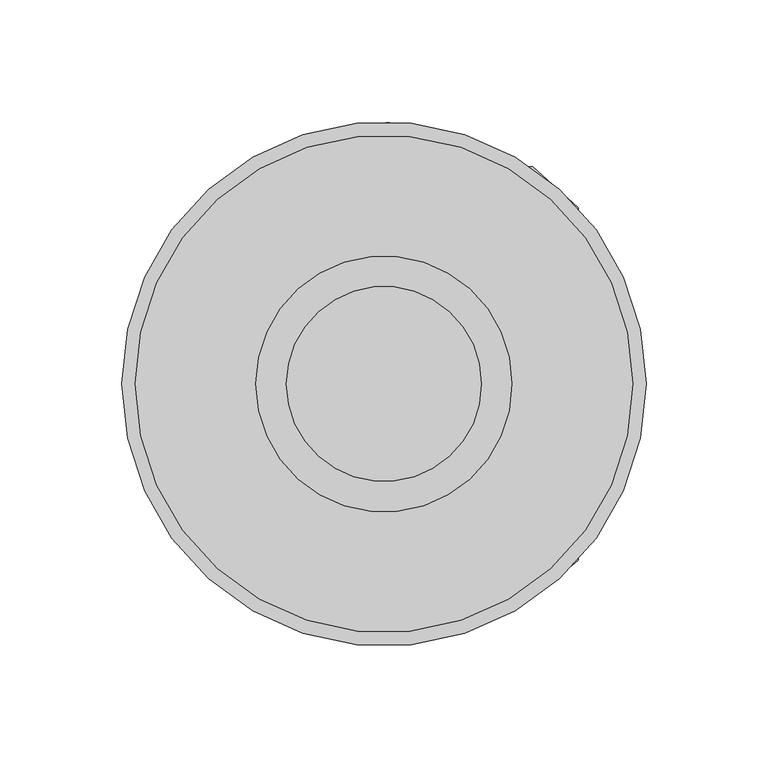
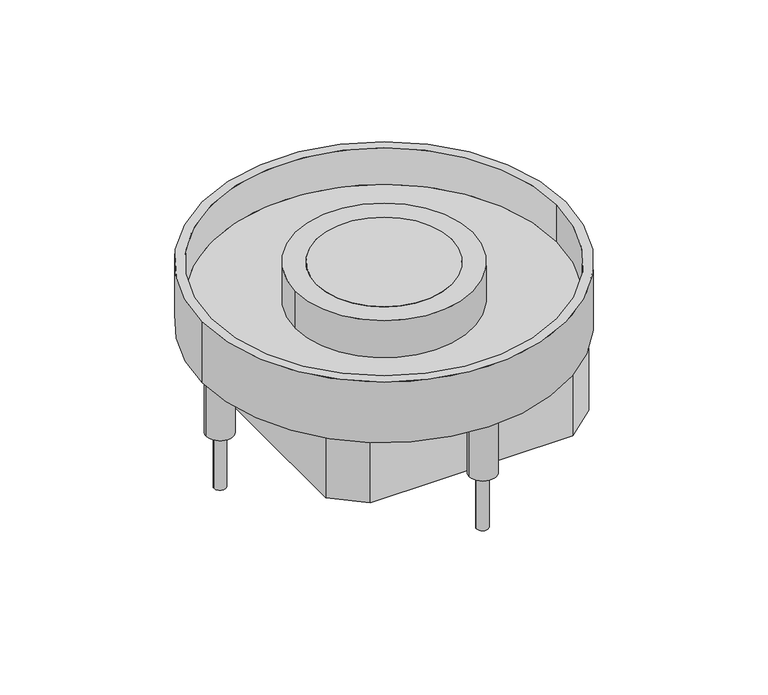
"""IFC4 building model written with IfcOpenShell, lengths in millimetres: proxy geometry, Electrical_Installation_Hager_VE-EE_EKSR0620TM-Heavy-duty-cassette-R06-with-tube-mounting-set : Stainless-steel cassette R06 TM 20 kN."""

from ifc_helpers import new_model, si_unit, point, frame, frame_2d, origin, origin_with_axes, origin_2d, place, context, project, spatial, polyline, circle_curve, trimmed, segment, composite_curve, outline, extrude, source, transform, mapped, element, save
from ifc_brep_helpers import plane_surface, cylinder_surface, revolved_surface, advanced_brep


def electrical_fixtures_7e9932c4(model_context):
    return source(origin(), model_context, "Body", "SolidModel", [
        extrude(outline(composite_curve([segment(trimmed(circle_curve(origin_2d(), 40.0), [point((-40.0, 0.0))], [point((40.0, 0.0))], False, "CARTESIAN"), True, "CONTINUOUS"), segment(trimmed(circle_curve(origin_2d(), 40.0), [point((40.0, 0.0))], [point((-40.0, 0.0))], False, "CARTESIAN"), True, "CONTINUOUS")], self_intersect=False)), origin_with_axes(), (0.0, 0.0, 1.0), 2.011943),
        extrude(outline(composite_curve([segment(trimmed(circle_curve(origin_2d(), 52.5), [point((-52.5, 0.0))], [point((52.5, 0.0))], False, "CARTESIAN"), True, "CONTINUOUS"), segment(trimmed(circle_curve(origin_2d(), 52.5), [point((52.5, 0.0))], [point((-52.5, 0.0))], False, "CARTESIAN"), True, "CONTINUOUS")], self_intersect=False), holes=[composite_curve([segment(trimmed(circle_curve(origin_2d(), 40.0), [point((-40.0, 0.0))], [point((40.0, 0.0))], True, "CARTESIAN"), True, "CONTINUOUS"), segment(trimmed(circle_curve(origin_2d(), 40.0), [point((40.0, 0.0))], [point((-40.0, 0.0))], True, "CARTESIAN"), True, "CONTINUOUS")], self_intersect=False)]), frame((0.0, 0.0, -27.092365), z_axis=(0.0, 0.0, 1.0), x_axis=(1.0, 0.0, 0.0)), (0.0, 0.0, 1.0), 29.104308),
        extrude(outline(composite_curve([segment(trimmed(circle_curve(frame_2d((-96.75, 0.625)), 3.5), [point((-100.25, 0.625))], [point((-93.25, 0.625))], False, "CARTESIAN"), True, "CONTINUOUS"), segment(trimmed(circle_curve(frame_2d((-96.75, 0.625)), 3.5), [point((-93.25, 0.625))], [point((-100.25, 0.625))], False, "CARTESIAN"), True, "CONTINUOUS")], self_intersect=False)), frame((0.0, 0.0, -105.0), z_axis=(0.0, 0.0, 1.0), x_axis=(1.0, 0.0, 0.0)), (0.0, 0.0, 1.0), 69.011943),
        extrude(outline(composite_curve([segment(trimmed(circle_curve(frame_2d((1.4883358, 98.943982)), 3.5), [point((-2.0116642, 98.943982))], [point((4.9883358, 98.943982))], False, "CARTESIAN"), True, "CONTINUOUS"), segment(trimmed(circle_curve(frame_2d((1.4883358, 98.943982)), 3.5), [point((4.9883358, 98.943982))], [point((-2.0116642, 98.943982))], False, "CARTESIAN"), True, "CONTINUOUS")], self_intersect=False)), frame((0.0, 0.0, -105.0), z_axis=(0.0, 0.0, 1.0), x_axis=(1.0, 0.0, 0.0)), (0.0, 0.0, 1.0), 69.011943),
        extrude(outline(composite_curve([segment(trimmed(circle_curve(frame_2d((100.1407046, 0.5401818)), 3.548869), [point((96.5918356, 0.5401818))], [point((103.6895736, 0.5401818))], False, "CARTESIAN"), True, "CONTINUOUS"), segment(trimmed(circle_curve(frame_2d((100.1407046, 0.5401818)), 3.548869), [point((103.6895736, 0.5401818))], [point((96.5918356, 0.5401818))], False, "CARTESIAN"), True, "CONTINUOUS")], self_intersect=False)), frame((0.0, 0.0, -105.0), z_axis=(0.0, 0.0, 1.0), x_axis=(1.0, 0.0, 0.0)), (0.0, 0.0, 1.0), 69.011943),
        extrude(outline(composite_curve([segment(trimmed(circle_curve(frame_2d((1.6828656, -97.9253063)), 3.5), [point((-1.8171344, -97.9253063))], [point((5.1828656, -97.9253063))], False, "CARTESIAN"), True, "CONTINUOUS"), segment(trimmed(circle_curve(frame_2d((1.6828656, -97.9253063)), 3.5), [point((5.1828656, -97.9253063))], [point((-1.8171344, -97.9253063))], False, "CARTESIAN"), True, "CONTINUOUS")], self_intersect=False)), frame((0.0, 0.0, -105.0), z_axis=(0.0, 0.0, 1.0), x_axis=(1.0, 0.0, 0.0)), (0.0, 0.0, 1.0), 69.011943),
        advanced_brep(
        [(102.0, 0.0, -20.988057), (-102.0, 0.0, -20.988057), (-40.0, 0.0, -20.988057), (40.0, 0.0, -20.988057), (-107.5, 0.0, -35.988057), (107.5, 0.0, -35.988057), (-40.0, 0.0, -35.988057), (40.0, 0.0, -35.988057), (-107.5, 0.0, 2.011943), (107.5, 0.0, 2.011943), (-102.0, 0.0, 2.011943), (102.0, 0.0, 2.011943)],
        [
            (0, 1, circle_curve(frame((0.0, 0.0, -20.988057), z_axis=(0.0, 0.0, 1.0), x_axis=(1.0, 0.0, 0.0)), 102.0)),
            (1, 0, circle_curve(frame((0.0, 0.0, -20.988057), z_axis=(0.0, 0.0, 1.0), x_axis=(1.0, 0.0, 0.0)), 102.0)),
            (2, 3, circle_curve(frame((0.0, 0.0, -20.988057), z_axis=(0.0, 0.0, -1.0), x_axis=(1.0, 0.0, 0.0)), 40.0)),
            (3, 2, circle_curve(frame((0.0, 0.0, -20.988057), z_axis=(0.0, 0.0, -1.0), x_axis=(1.0, 0.0, 0.0)), 40.0)),
            (4, 5, circle_curve(frame((0.0, 0.0, -35.988057), z_axis=(0.0, 0.0, -1.0), x_axis=(1.0, 0.0, 0.0)), 107.5)),
            (5, 4, circle_curve(frame((0.0, 0.0, -35.988057), z_axis=(0.0, 0.0, -1.0), x_axis=(1.0, 0.0, 0.0)), 107.5)),
            (6, 7, circle_curve(frame((0.0, 0.0, -35.988057), z_axis=(0.0, 0.0, 1.0), x_axis=(1.0, 0.0, 0.0)), 40.0)),
            (7, 6, circle_curve(frame((0.0, 0.0, -35.988057), z_axis=(0.0, 0.0, 1.0), x_axis=(1.0, 0.0, 0.0)), 40.0)),
            (8, 9, circle_curve(frame((0.0, 0.0, 2.011943), z_axis=(0.0, 0.0, 1.0), x_axis=(1.0, 0.0, 0.0)), 107.5)),
            (9, 8, circle_curve(frame((0.0, 0.0, 2.011943), z_axis=(0.0, 0.0, 1.0), x_axis=(1.0, 0.0, 0.0)), 107.5)),
            (10, 11, circle_curve(frame((0.0, 0.0, 2.011943), z_axis=(0.0, 0.0, -1.0), x_axis=(1.0, 0.0, 0.0)), 102.0)),
            (11, 10, circle_curve(frame((0.0, 0.0, 2.011943), z_axis=(0.0, 0.0, -1.0), x_axis=(1.0, 0.0, 0.0)), 102.0)),
            (8, 4),
            (5, 9),
            (10, 1),
            (0, 11),
            (2, 6),
            (7, 3),
        ],
        [
            plane_surface(frame((102.0, 0.0, -20.988057), z_axis=(0.0, 0.0, 1.0), x_axis=(0.0, 1.0, 0.0))),
            plane_surface(frame((102.0, 0.0, -35.988057), z_axis=(0.0, 0.0, -1.0), x_axis=(0.0, -1.0, 0.0))),
            plane_surface(frame((107.5, 0.0, 2.011943), z_axis=(0.0, 0.0, 1.0), x_axis=(0.0, 1.0, 0.0))),
            cylinder_surface(frame((0.0, 0.0, -35.988057), z_axis=(0.0, 0.0, 1.0), x_axis=(1.0, 0.0, 0.0)), 107.5),
            revolved_surface(polyline([(102.0, 0.0, -20.988057), (102.0, 0.0, 2.011943)]), (0.0, 0.0, 0.0), (0.0, 0.0, -1.0)),
            revolved_surface(polyline([(40.0, 0.0, -35.988057), (40.0, 0.0, -20.988057)]), (0.0, 0.0, 0.0), (0.0, 0.0, -1.0)),
        ],
        [
            (0, [[1, 2], [3, 4]]),
            (1, [[5, 6], [7, 8]]),
            (2, [[9, 10], [11, 12]]),
            (3, [[-9, 13, -6, 14]]),
            (3, [[-10, -14, -5, -13]]),
            (4, [[-11, 15, -1, 16]]),
            (4, [[-12, -16, -2, -15]]),
            (5, [[-3, 17, -8, 18]]),
            (5, [[-4, -18, -7, -17]]),
        ],
    ),
        extrude(outline(polyline([(79.5933184, -72.2575509), (60.8539644, -87.9817359), (-58.8741225, -87.9817359), (-76.4066816, -72.7409148), (-76.4066816, 72.7621921), (-58.3457118, 89.018267), (60.9716777, 89.018267), (79.5933184, 72.2575509), (79.5933184, -72.2575509)]), holes=[polyline([(-73.9066816, 72.0004319), (-73.9066816, -72.6903231), (-58.6624673, -85.4817377), (61.5657928, -85.4817377), (77.0933184, -72.4525967), (77.0933184, 72.2575509), (61.2492553, 86.5182623), (-57.7769518, 86.5182623), (-73.9066816, 72.0004319)])]), frame((0.0, 0.0, -74.8629947), z_axis=(0.0, 0.0, 1.0), x_axis=(1.0, 0.0, 0.0)), (0.0, 0.0, 1.0), 38.8749377),
        extrude(outline(composite_curve([segment(trimmed(circle_curve(frame_2d((1.5928677, 99.1281573)), 8.0), [point((-6.4071323, 99.1281573))], [point((9.5928677, 99.1281573))], False, "CARTESIAN"), True, "CONTINUOUS"), segment(trimmed(circle_curve(frame_2d((1.5928677, 99.1281573)), 8.0), [point((9.5928677, 99.1281573))], [point((-6.4071323, 99.1281573))], False, "CARTESIAN"), True, "CONTINUOUS")], self_intersect=False)), frame((0.0, 0.0, -70.8629319), z_axis=(0.0, 0.0, 1.0), x_axis=(1.0, 0.0, 0.0)), (0.0, 0.0, 1.0), 34.8748749),
        extrude(outline(composite_curve([segment(trimmed(circle_curve(frame_2d((98.943982, 0.4579495)), 8.0), [point((90.943982, 0.4579495))], [point((106.943982, 0.4579495))], False, "CARTESIAN"), True, "CONTINUOUS"), segment(trimmed(circle_curve(frame_2d((98.943982, 0.4579495)), 8.0), [point((106.943982, 0.4579495))], [point((90.943982, 0.4579495))], False, "CARTESIAN"), True, "CONTINUOUS")], self_intersect=False)), frame((0.0, 0.0, -70.8629319), z_axis=(0.0, 0.0, 1.0), x_axis=(1.0, 0.0, 0.0)), (0.0, 0.0, 1.0), 34.8748749),
        extrude(outline(composite_curve([segment(trimmed(circle_curve(frame_2d((1.9462852, -97.9042347)), 8.0), [point((-6.0537148, -97.9042347))], [point((9.9462852, -97.9042347))], False, "CARTESIAN"), True, "CONTINUOUS"), segment(trimmed(circle_curve(frame_2d((1.9462852, -97.9042347)), 8.0), [point((9.9462852, -97.9042347))], [point((-6.0537148, -97.9042347))], False, "CARTESIAN"), True, "CONTINUOUS")], self_intersect=False)), frame((0.0, 0.0, -70.8629319), z_axis=(0.0, 0.0, 1.0), x_axis=(1.0, 0.0, 0.0)), (0.0, 0.0, 1.0), 34.8748749),
        extrude(outline(composite_curve([segment(trimmed(circle_curve(frame_2d((-96.8166047, 0.6583024)), 8.0), [point((-104.8166047, 0.6583024))], [point((-88.8166047, 0.6583024))], False, "CARTESIAN"), True, "CONTINUOUS"), segment(trimmed(circle_curve(frame_2d((-96.8166047, 0.6583024)), 8.0), [point((-88.8166047, 0.6583024))], [point((-104.8166047, 0.6583024))], False, "CARTESIAN"), True, "CONTINUOUS")], self_intersect=False)), frame((0.0, 0.0, -70.8629319), z_axis=(0.0, 0.0, 1.0), x_axis=(1.0, 0.0, 0.0)), (0.0, 0.0, 1.0), 34.8748749),
    ])


if __name__ == "__main__":
    model = new_model("IFC4")
    model_context = context("Model", 3, world=origin())
    ifc_project = project(units=[si_unit("LENGTHUNIT", "METRE", prefix="MILLI")], contexts=[model_context])
    site = spatial("IfcSite", under=ifc_project)
    building = spatial("IfcBuilding", under=site)
    placement = place(None, origin())
    electrical_fixtures_shape = electrical_fixtures_7e9932c4(model_context)
    element("IfcBuildingElementProxy", 1, Name="Electrical_Installation_Hager_VE-EE_EKSR0620TM-Heavy-duty-cassette-R06-with-tube-mounting-set : Stainless-steel cassette R06 TM 20 kN", ObjectType="Electrical_Installation_Hager_VE-EE_EKSR0620TM-Heavy-duty-cassette-R06-with-tube-mounting-set : Stainless-steel cassette R06 TM 20 kN", at=placement, inside=building, context=model_context, shape_type="MappedRepresentation", body=[
        mapped(electrical_fixtures_shape, transform((0.0, 0.0, 0.0), x_axis=(1.0, 0.0, 0.0), y_axis=(0.0, 1.0, 0.0), z_axis=(0.0, 0.0, 1.0))),
    ])
    save(model, "model.ifc")
